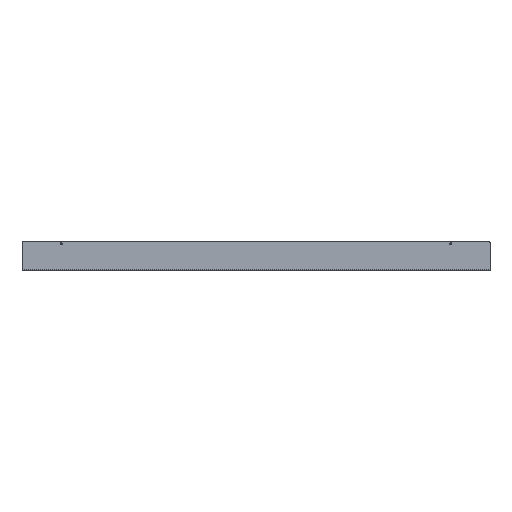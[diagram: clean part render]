
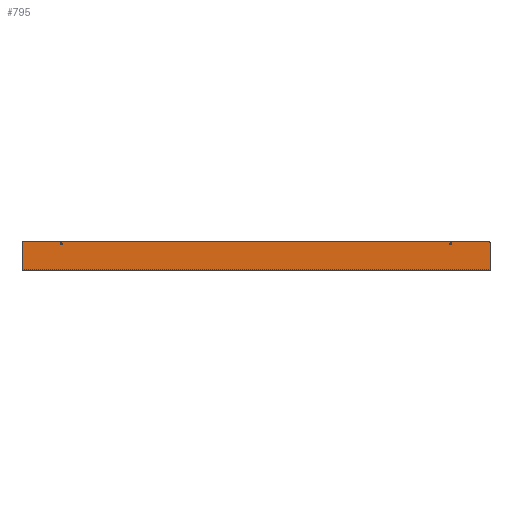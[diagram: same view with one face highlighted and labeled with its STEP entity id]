
A CAD part, top view. The second image highlights one B-rep face of the part: STEP entity #795.
In plain terms, the highlighted planar face has unit normal (0, 0, 1).
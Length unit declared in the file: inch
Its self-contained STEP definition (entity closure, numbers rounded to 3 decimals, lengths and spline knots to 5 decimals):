
#191=CARTESIAN_POINT('',(23.625,1.5,0.055));
#192=VERTEX_POINT('',#191);
#193=CARTESIAN_POINT('',(23.75,1.375,0.055));
#194=VERTEX_POINT('',#193);
#195=CARTESIAN_POINT('',(23.625,1.375,0.055));
#196=DIRECTION('',(0.0,0.0,-1.0));
#197=DIRECTION('',(0.707,0.707,0.0));
#198=AXIS2_PLACEMENT_3D('',#195,#196,#197);
#199=CIRCLE('',#198,0.125);
#200=EDGE_CURVE('',#192,#194,#199,.T.);
#242=CARTESIAN_POINT('',(-23.625,1.5,0.055));
#243=VERTEX_POINT('',#242);
#250=CARTESIAN_POINT('',(-23.625,1.5,0.055));
#251=DIRECTION('',(1.0,0.0,0.0));
#252=VECTOR('',#251,47.25);
#253=LINE('',#250,#252);
#254=EDGE_CURVE('',#243,#192,#253,.T.);
#327=CARTESIAN_POINT('',(-23.75,1.375,0.055));
#328=VERTEX_POINT('',#327);
#329=CARTESIAN_POINT('',(-23.625,1.375,0.055));
#330=DIRECTION('',(0.0,0.0,-1.0));
#331=DIRECTION('',(-0.707,0.707,0.0));
#332=AXIS2_PLACEMENT_3D('',#329,#330,#331);
#333=CIRCLE('',#332,0.125);
#334=EDGE_CURVE('',#328,#243,#333,.T.);
#354=CARTESIAN_POINT('',(-23.75,-1.414,0.055));
#355=VERTEX_POINT('',#354);
#362=CARTESIAN_POINT('',(-23.75,-1.414,0.055));
#363=DIRECTION('',(0.0,1.0,0.0));
#364=VECTOR('',#363,2.789);
#365=LINE('',#362,#364);
#366=EDGE_CURVE('',#355,#328,#365,.T.);
#589=CARTESIAN_POINT('',(-19.8385,1.25,0.055));
#590=VERTEX_POINT('',#589);
#591=CARTESIAN_POINT('',(-19.75,1.25,0.055));
#592=DIRECTION('',(0.0,0.0,-1.0));
#593=DIRECTION('',(1.0,0.0,0.0));
#594=AXIS2_PLACEMENT_3D('',#591,#592,#593);
#595=CIRCLE('',#594,0.0885);
#596=EDGE_CURVE('',#590,#590,#595,.T.);
#609=CARTESIAN_POINT('',(19.6615,1.25,0.055));
#610=VERTEX_POINT('',#609);
#611=CARTESIAN_POINT('',(19.75,1.25,0.055));
#612=DIRECTION('',(0.0,0.0,-1.0));
#613=DIRECTION('',(1.0,0.0,0.0));
#614=AXIS2_PLACEMENT_3D('',#611,#612,#613);
#615=CIRCLE('',#614,0.0885);
#616=EDGE_CURVE('',#610,#610,#615,.T.);
#678=CARTESIAN_POINT('',(23.75,-1.414,0.055));
#679=VERTEX_POINT('',#678);
#749=CARTESIAN_POINT('',(-23.75,-1.414,0.055));
#750=DIRECTION('',(1.0,0.0,0.0));
#751=VECTOR('',#750,47.5);
#752=LINE('',#749,#751);
#753=EDGE_CURVE('',#355,#679,#752,.T.);
#765=CARTESIAN_POINT('',(23.75,1.375,0.055));
#766=DIRECTION('',(0.0,-1.0,0.0));
#767=VECTOR('',#766,2.789);
#768=LINE('',#765,#767);
#769=EDGE_CURVE('',#194,#679,#768,.T.);
#776=CARTESIAN_POINT('',(0.0,0.,0.055));
#777=DIRECTION('',(0.0,0.0,1.0));
#778=DIRECTION('',(1.0,0.0,0.0));
#779=AXIS2_PLACEMENT_3D('',#776,#777,#778);
#780=PLANE('',#779);
#781=ORIENTED_EDGE('',*,*,#200,.F.);
#782=ORIENTED_EDGE('',*,*,#254,.F.);
#783=ORIENTED_EDGE('',*,*,#334,.F.);
#784=ORIENTED_EDGE('',*,*,#366,.F.);
#785=ORIENTED_EDGE('',*,*,#753,.T.);
#786=ORIENTED_EDGE('',*,*,#769,.F.);
#787=EDGE_LOOP('',(#781,#782,#783,#784,#785,#786));
#788=FACE_OUTER_BOUND('',#787,.T.);
#789=ORIENTED_EDGE('',*,*,#596,.T.);
#790=EDGE_LOOP('',(#789));
#791=FACE_BOUND('',#790,.T.);
#792=ORIENTED_EDGE('',*,*,#616,.T.);
#793=EDGE_LOOP('',(#792));
#794=FACE_BOUND('',#793,.T.);
#795=ADVANCED_FACE('',(#788,#791,#794),#780,.T.);
